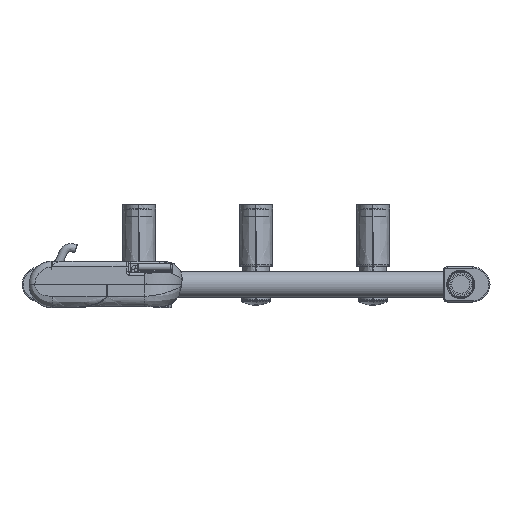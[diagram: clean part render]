
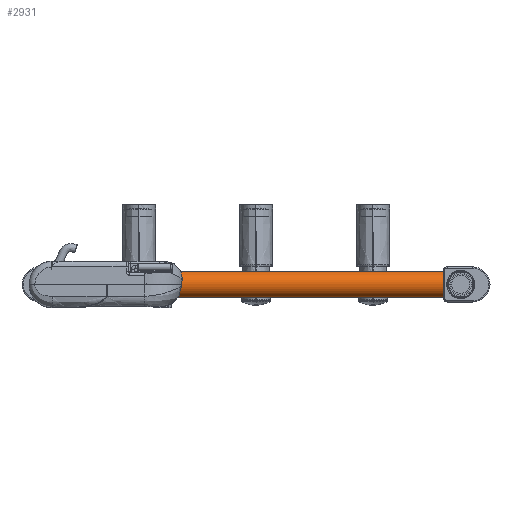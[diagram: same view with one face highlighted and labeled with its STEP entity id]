
A CAD part, front view. The second image highlights one B-rep face of the part: STEP entity #2931.
In plain terms, the highlighted cylindrical face has radius 11 mm (diameter 22 mm), a partial arc.
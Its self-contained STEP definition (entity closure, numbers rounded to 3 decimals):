
#319=CARTESIAN_POINT('',(160.,-726.,0.));
#320=DIRECTION('',(1.,0.,0.));
#321=DIRECTION('',(0.,0.,1.));
#322=AXIS2_PLACEMENT_3D('',#319,#320,#321);
#888=DIRECTION('',(1.,0.,0.));
#889=VECTOR('',#888,320.);
#890=CARTESIAN_POINT('',(-160.,-726.,-11.));
#891=LINE('',#890,#889);
#895=DIRECTION('',(1.,0.,0.));
#896=VECTOR('',#895,320.);
#897=CARTESIAN_POINT('',(-160.,-726.,11.));
#898=LINE('',#897,#896);
#938=CARTESIAN_POINT('',(-160.,-726.,0.));
#939=DIRECTION('',(1.,0.,0.));
#940=DIRECTION('',(0.,0.,1.));
#941=AXIS2_PLACEMENT_3D('',#938,#939,#940);
#2144=CARTESIAN_POINT('',(-160.,-726.,-11.));
#2145=CARTESIAN_POINT('',(160.,-726.,-11.));
#2146=VERTEX_POINT('',#2144);
#2147=VERTEX_POINT('',#2145);
#2148=CARTESIAN_POINT('',(-160.,-726.,11.));
#2149=CARTESIAN_POINT('',(160.,-726.,11.));
#2150=VERTEX_POINT('',#2148);
#2151=VERTEX_POINT('',#2149);
#2919=CARTESIAN_POINT('',(-240.,-726.,0.));
#2920=DIRECTION('',(1.,0.,0.));
#2921=DIRECTION('',(0.,0.,-1.));
#2922=AXIS2_PLACEMENT_3D('',#2919,#2920,#2921);
#2923=CYLINDRICAL_SURFACE('',#2922,11.);
#2924=ORIENTED_EDGE('',*,*,#2909,.F.);
#2926=ORIENTED_EDGE('',*,*,#2925,.F.);
#2927=ORIENTED_EDGE('',*,*,#2912,.T.);
#2928=ORIENTED_EDGE('',*,*,#2568,.T.);
#2929=EDGE_LOOP('',(#2924,#2926,#2927,#2928));
#2930=FACE_OUTER_BOUND('',#2929,.F.);
#323=CIRCLE('',#322,11.);
#942=CIRCLE('',#941,11.);
#2568=EDGE_CURVE('',#2151,#2147,#323,.T.);
#2909=EDGE_CURVE('',#2146,#2147,#891,.T.);
#2912=EDGE_CURVE('',#2150,#2151,#898,.T.);
#2925=EDGE_CURVE('',#2150,#2146,#942,.T.);
#2931=ADVANCED_FACE('',(#2930),#2923,.T.);
